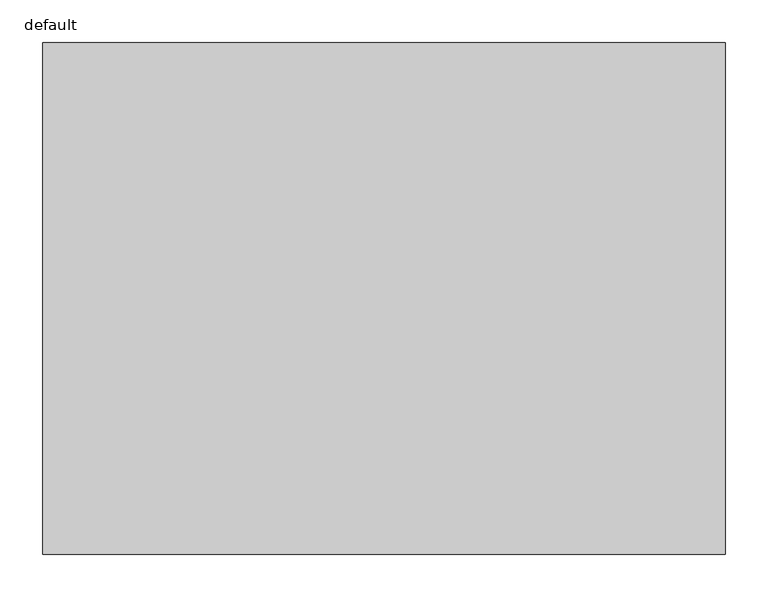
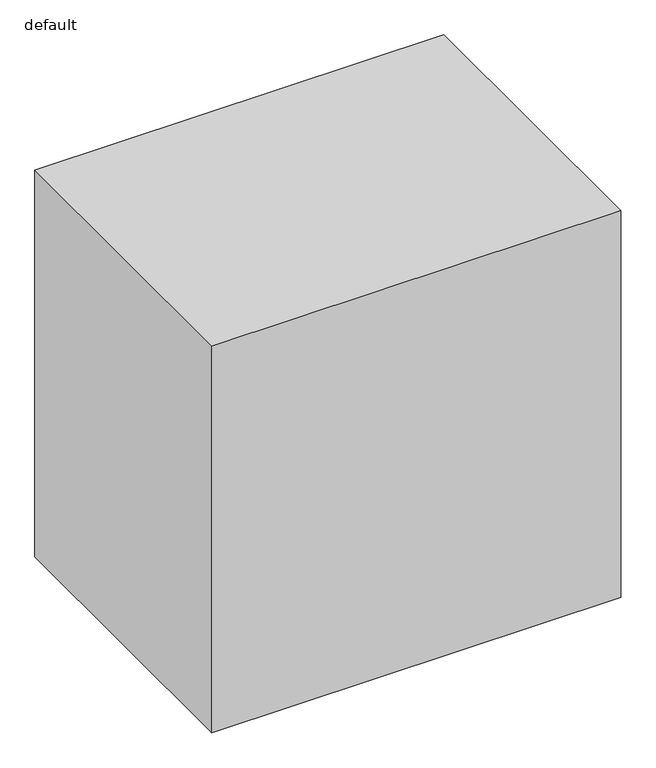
"""IFC4 building model written with IfcOpenShell, lengths in millimetres: furniture geometry, Fu_кухонный напольный модуль_LEG : default."""

from ifc_helpers import new_model, si_unit, origin, origin_with_axes, place, context, project, spatial, polyline, outline, extrude, source, transform, mapped, element, save


def default_f59ce116(model_context):
    return source(origin(), model_context, "Body", "SweptSolid", [
        extrude(outline(polyline([(800.0, 0.0), (800.0, -600.0), (0.0, -600.0), (0.0, 0.0), (800.0, 0.0)])), origin_with_axes(), (0.0, 0.0, 1.0), 800.0),
    ])


if __name__ == "__main__":
    model = new_model("IFC4")
    model_context = context("Model", 3, world=origin())
    ifc_project = project(units=[si_unit("LENGTHUNIT", "METRE", prefix="MILLI")], contexts=[model_context])
    site = spatial("IfcSite", under=ifc_project)
    building = spatial("IfcBuilding", under=site)
    placement = place(None, origin())
    default_shape = default_f59ce116(model_context)
    element("IfcFurniture", 1, ObjectType="Fu_кухонный напольный модуль_LEG : default", at=placement, inside=building, context=model_context, shape_type="MappedRepresentation", body=[
        mapped(default_shape, transform((0.0, 0.0, 0.0), x_axis=(1.0, 0.0, 0.0), y_axis=(0.0, 1.0, 0.0), z_axis=(0.0, 0.0, 1.0))),
    ])
    save(model, "model.ifc")
